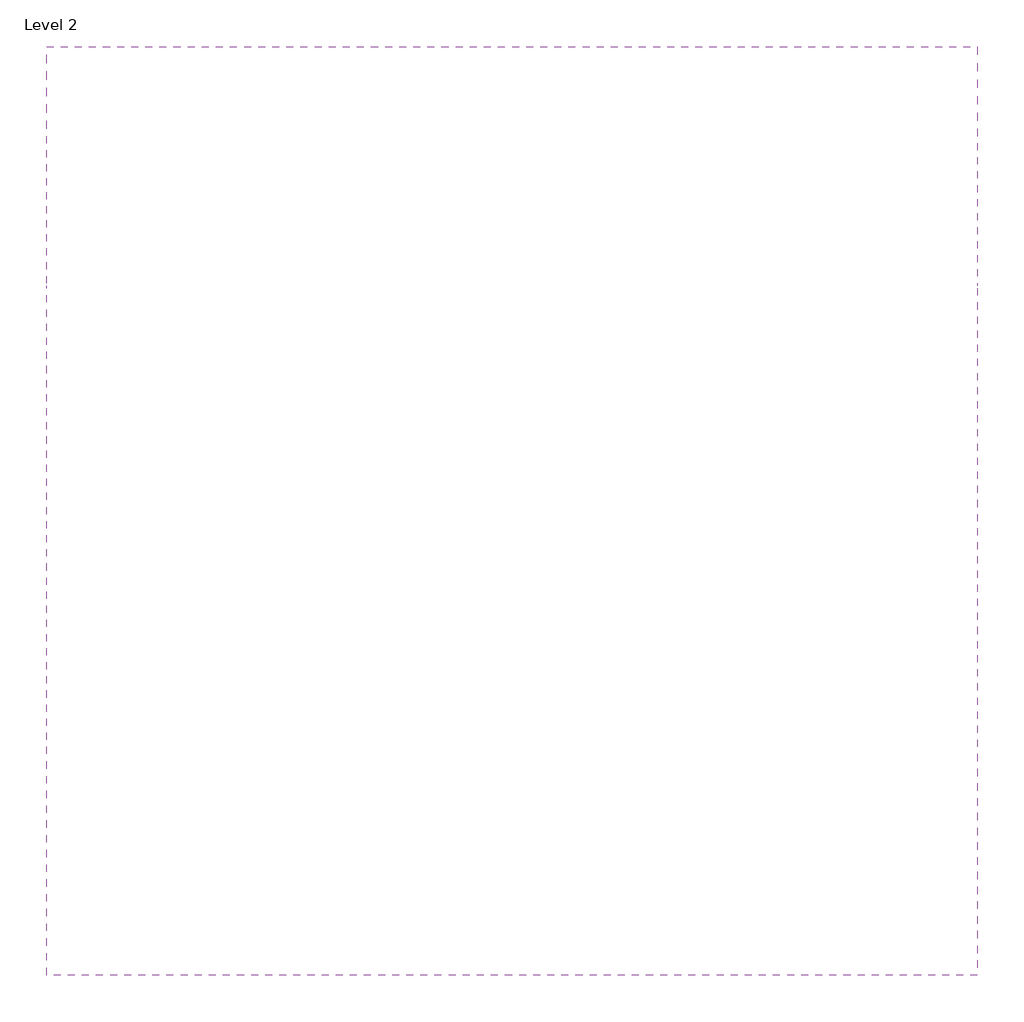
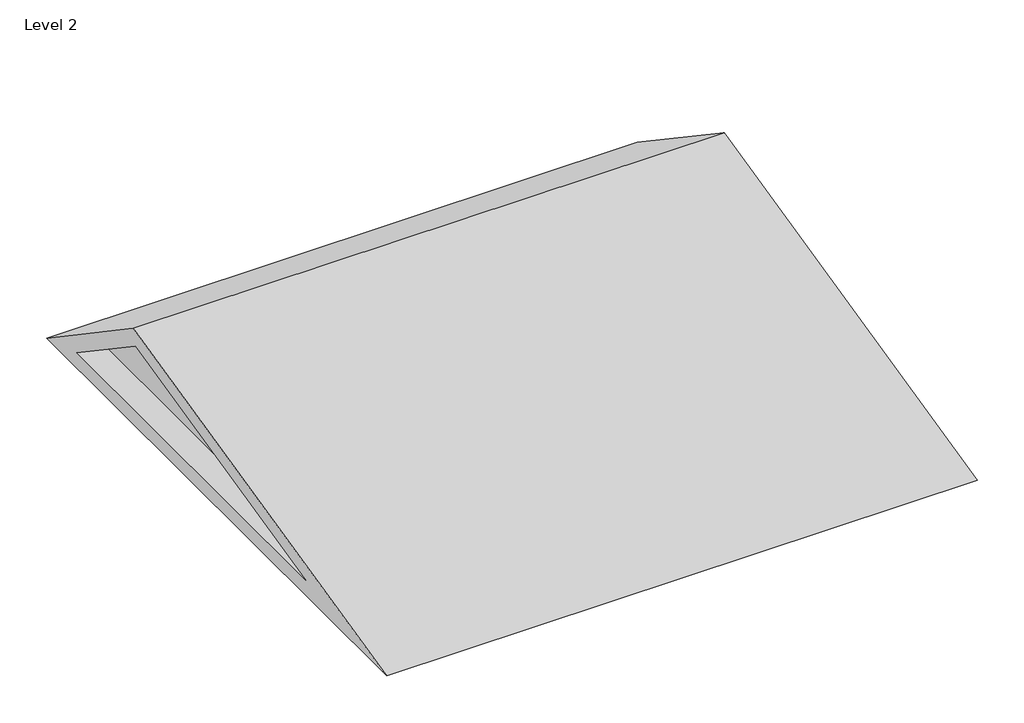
# One storey, incomplete: 1 proxy.
"""IFC4 building model written with IfcOpenShell, lengths in millimetres."""

from ifc_helpers import new_model, si_unit, origin, place, context, project, spatial, transform, mapped, element, save
from components import generic_models_15_generic_models_15_5912c80d

model = new_model("IFC4")

# Units and contexts
model_context = context("Model", 3, world=origin())
ifc_project = project(units=[si_unit("LENGTHUNIT", "METRE", prefix="MILLI")], contexts=[model_context])

# Site, building, storey
site = spatial("IfcSite", under=ifc_project)
building = spatial("IfcBuilding", under=site)
storey = spatial("IfcBuildingStorey", under=building, Name="Level 2", Elevation=4000.0)

# Proxy
placement = place(None, origin())
generic_models_15_generic_models_15_shape = generic_models_15_generic_models_15_5912c80d(model_context)
element("IfcBuildingElementProxy", 1, Name="Generic Models 15 : Generic Models 15", ObjectType="Generic Models 15 : Generic Models 15", at=placement, inside=storey, context=model_context, shape_type="MappedRepresentation", body=[
    mapped(generic_models_15_generic_models_15_shape, transform((0.0, 0.0, 0.0), x_axis=(1.0, 0.0, 0.0), y_axis=(0.0, 1.0, 0.0), z_axis=(0.0, 0.0, 1.0))),
])

save(model, "model.ifc")
